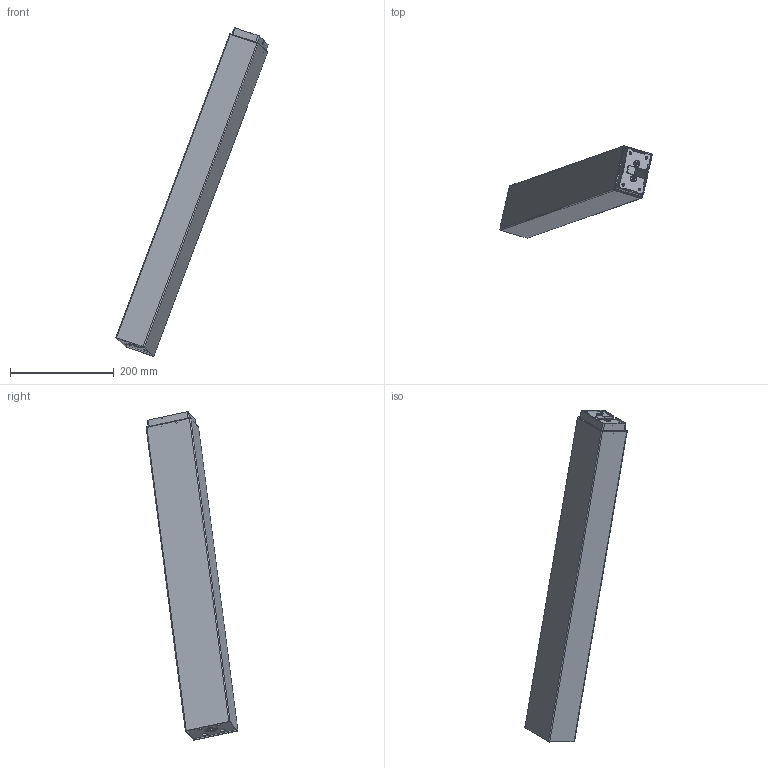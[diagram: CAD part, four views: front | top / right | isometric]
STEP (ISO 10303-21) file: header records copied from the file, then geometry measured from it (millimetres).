
FILE_DESCRIPTION (( 'STEP AP203' ), '1' );
FILE_NAME ('3D_TL37S.STEP', '2022-09-16T10:07:03', ( '' ), ( '' ), 'SwSTEP 2.0', 'SolidWorks 2015', '' );
FILE_SCHEMA (( 'CONFIG_CONTROL_DESIGN' ));
Length unit declared in the file: inch
Products named in the file (1): 3D_TL37S
Bounding box: 294.17 x 177.11 x 634.23 mm (x, y, z)
Volume: 565422.4 mm3; surface area: 726670.1 mm2
Topology: 14 solids, 14 shells, 998 faces, 2655 edges, 1689 vertices
Faces by surface type: cylinder 420, plane 364, torus 134, bspline 64, cone 16
Entity records: 38394 total; most frequent: CARTESIAN_POINT 14031, ORIENTED_EDGE 5310, DIRECTION 4862, EDGE_CURVE 2655, AXIS2_PLACEMENT_3D 1735, VERTEX_POINT 1689, LINE 1392, VECTOR 1392
